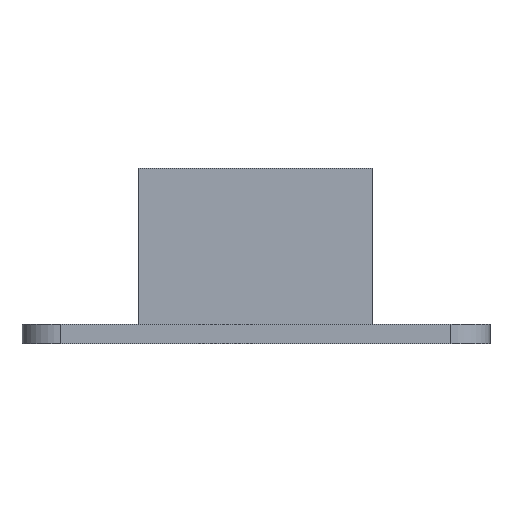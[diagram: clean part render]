
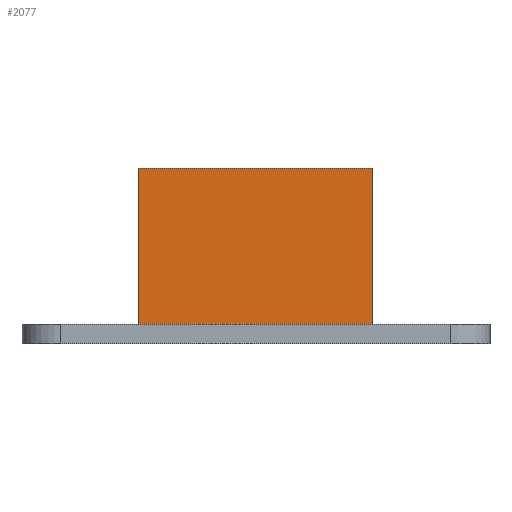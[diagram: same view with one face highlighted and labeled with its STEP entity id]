
A CAD part, front view. The second image highlights one B-rep face of the part: STEP entity #2077.
In plain terms, the highlighted planar face has unit normal (0, -1, 0).
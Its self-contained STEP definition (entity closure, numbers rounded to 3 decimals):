
#100 = PLANE('',#101);
#101 = AXIS2_PLACEMENT_3D('',#102,#103,#104);
#102 = CARTESIAN_POINT('',(0.,0.,5.));
#103 = DIRECTION('',(0.,0.,-1.));
#104 = DIRECTION('',(-1.,0.,0.));
#658 = VERTEX_POINT('',#659);
#659 = CARTESIAN_POINT('',(-30.,-25.,5.));
#673 = PLANE('',#674);
#674 = AXIS2_PLACEMENT_3D('',#675,#676,#677);
#675 = CARTESIAN_POINT('',(-30.,-25.,5.));
#676 = DIRECTION('',(-1.,0.,0.));
#677 = DIRECTION('',(0.,1.,0.));
#685 = EDGE_CURVE('',#686,#658,#688,.T.);
#686 = VERTEX_POINT('',#687);
#687 = CARTESIAN_POINT('',(30.,-25.,5.));
#688 = SURFACE_CURVE('',#689,(#693,#700),.PCURVE_S1.);
#689 = LINE('',#690,#691);
#690 = CARTESIAN_POINT('',(30.,-25.,5.));
#691 = VECTOR('',#692,1.);
#692 = DIRECTION('',(-1.,0.,0.));
#693 = PCURVE('',#100,#694);
#694 = DEFINITIONAL_REPRESENTATION('',(#695),#699);
#695 = LINE('',#696,#697);
#696 = CARTESIAN_POINT('',(-30.,-25.));
#697 = VECTOR('',#698,1.);
#698 = DIRECTION('',(1.,0.));
#699 = ( GEOMETRIC_REPRESENTATION_CONTEXT(2) 
PARAMETRIC_REPRESENTATION_CONTEXT() REPRESENTATION_CONTEXT('2D SPACE',''
  ) );
#700 = PCURVE('',#701,#706);
#701 = PLANE('',#702);
#702 = AXIS2_PLACEMENT_3D('',#703,#704,#705);
#703 = CARTESIAN_POINT('',(30.,-25.,5.));
#704 = DIRECTION('',(0.,-1.,0.));
#705 = DIRECTION('',(-1.,0.,0.));
#706 = DEFINITIONAL_REPRESENTATION('',(#707),#711);
#707 = LINE('',#708,#709);
#708 = CARTESIAN_POINT('',(0.,0.));
#709 = VECTOR('',#710,1.);
#710 = DIRECTION('',(1.,0.));
#711 = ( GEOMETRIC_REPRESENTATION_CONTEXT(2) 
PARAMETRIC_REPRESENTATION_CONTEXT() REPRESENTATION_CONTEXT('2D SPACE',''
  ) );
#727 = PLANE('',#728);
#728 = AXIS2_PLACEMENT_3D('',#729,#730,#731);
#729 = CARTESIAN_POINT('',(30.,25.,5.));
#730 = DIRECTION('',(1.,0.,0.));
#731 = DIRECTION('',(0.,-1.,0.));
#1576 = EDGE_CURVE('',#658,#1577,#1579,.T.);
#1577 = VERTEX_POINT('',#1578);
#1578 = CARTESIAN_POINT('',(-30.,-25.,45.));
#1579 = SURFACE_CURVE('',#1580,(#1584,#1591),.PCURVE_S1.);
#1580 = LINE('',#1581,#1582);
#1581 = CARTESIAN_POINT('',(-30.,-25.,5.));
#1582 = VECTOR('',#1583,1.);
#1583 = DIRECTION('',(0.,0.,1.));
#1584 = PCURVE('',#673,#1585);
#1585 = DEFINITIONAL_REPRESENTATION('',(#1586),#1590);
#1586 = LINE('',#1587,#1588);
#1587 = CARTESIAN_POINT('',(0.,0.));
#1588 = VECTOR('',#1589,1.);
#1589 = DIRECTION('',(0.,-1.));
#1590 = ( GEOMETRIC_REPRESENTATION_CONTEXT(2) 
PARAMETRIC_REPRESENTATION_CONTEXT() REPRESENTATION_CONTEXT('2D SPACE',''
  ) );
#1591 = PCURVE('',#701,#1592);
#1592 = DEFINITIONAL_REPRESENTATION('',(#1593),#1597);
#1593 = LINE('',#1594,#1595);
#1594 = CARTESIAN_POINT('',(60.,0.));
#1595 = VECTOR('',#1596,1.);
#1596 = DIRECTION('',(0.,-1.));
#1597 = ( GEOMETRIC_REPRESENTATION_CONTEXT(2) 
PARAMETRIC_REPRESENTATION_CONTEXT() REPRESENTATION_CONTEXT('2D SPACE',''
  ) );
#1615 = PLANE('',#1616);
#1616 = AXIS2_PLACEMENT_3D('',#1617,#1618,#1619);
#1617 = CARTESIAN_POINT('',(0.,0.,45.));
#1618 = DIRECTION('',(0.,0.,-1.));
#1619 = DIRECTION('',(-1.,0.,0.));
#2035 = VERTEX_POINT('',#2036);
#2036 = CARTESIAN_POINT('',(30.,-25.,45.));
#2057 = EDGE_CURVE('',#686,#2035,#2058,.T.);
#2058 = SURFACE_CURVE('',#2059,(#2063,#2070),.PCURVE_S1.);
#2059 = LINE('',#2060,#2061);
#2060 = CARTESIAN_POINT('',(30.,-25.,5.));
#2061 = VECTOR('',#2062,1.);
#2062 = DIRECTION('',(0.,0.,1.));
#2063 = PCURVE('',#727,#2064);
#2064 = DEFINITIONAL_REPRESENTATION('',(#2065),#2069);
#2065 = LINE('',#2066,#2067);
#2066 = CARTESIAN_POINT('',(50.,0.));
#2067 = VECTOR('',#2068,1.);
#2068 = DIRECTION('',(0.,-1.));
#2069 = ( GEOMETRIC_REPRESENTATION_CONTEXT(2) 
PARAMETRIC_REPRESENTATION_CONTEXT() REPRESENTATION_CONTEXT('2D SPACE',''
  ) );
#2070 = PCURVE('',#701,#2071);
#2071 = DEFINITIONAL_REPRESENTATION('',(#2072),#2076);
#2072 = LINE('',#2073,#2074);
#2073 = CARTESIAN_POINT('',(0.,0.));
#2074 = VECTOR('',#2075,1.);
#2075 = DIRECTION('',(0.,-1.));
#2076 = ( GEOMETRIC_REPRESENTATION_CONTEXT(2) 
PARAMETRIC_REPRESENTATION_CONTEXT() REPRESENTATION_CONTEXT('2D SPACE',''
  ) );
#2077 = ADVANCED_FACE('',(#2078),#701,.T.);
#2078 = FACE_BOUND('',#2079,.T.);
#2079 = EDGE_LOOP('',(#2080,#2081,#2102,#2103));
#2080 = ORIENTED_EDGE('',*,*,#2057,.T.);
#2081 = ORIENTED_EDGE('',*,*,#2082,.T.);
#2082 = EDGE_CURVE('',#2035,#1577,#2083,.T.);
#2083 = SURFACE_CURVE('',#2084,(#2088,#2095),.PCURVE_S1.);
#2084 = LINE('',#2085,#2086);
#2085 = CARTESIAN_POINT('',(30.,-25.,45.));
#2086 = VECTOR('',#2087,1.);
#2087 = DIRECTION('',(-1.,0.,0.));
#2088 = PCURVE('',#701,#2089);
#2089 = DEFINITIONAL_REPRESENTATION('',(#2090),#2094);
#2090 = LINE('',#2091,#2092);
#2091 = CARTESIAN_POINT('',(0.,-40.));
#2092 = VECTOR('',#2093,1.);
#2093 = DIRECTION('',(1.,0.));
#2094 = ( GEOMETRIC_REPRESENTATION_CONTEXT(2) 
PARAMETRIC_REPRESENTATION_CONTEXT() REPRESENTATION_CONTEXT('2D SPACE',''
  ) );
#2095 = PCURVE('',#1615,#2096);
#2096 = DEFINITIONAL_REPRESENTATION('',(#2097),#2101);
#2097 = LINE('',#2098,#2099);
#2098 = CARTESIAN_POINT('',(-30.,-25.));
#2099 = VECTOR('',#2100,1.);
#2100 = DIRECTION('',(1.,0.));
#2101 = ( GEOMETRIC_REPRESENTATION_CONTEXT(2) 
PARAMETRIC_REPRESENTATION_CONTEXT() REPRESENTATION_CONTEXT('2D SPACE',''
  ) );
#2102 = ORIENTED_EDGE('',*,*,#1576,.F.);
#2103 = ORIENTED_EDGE('',*,*,#685,.F.);
